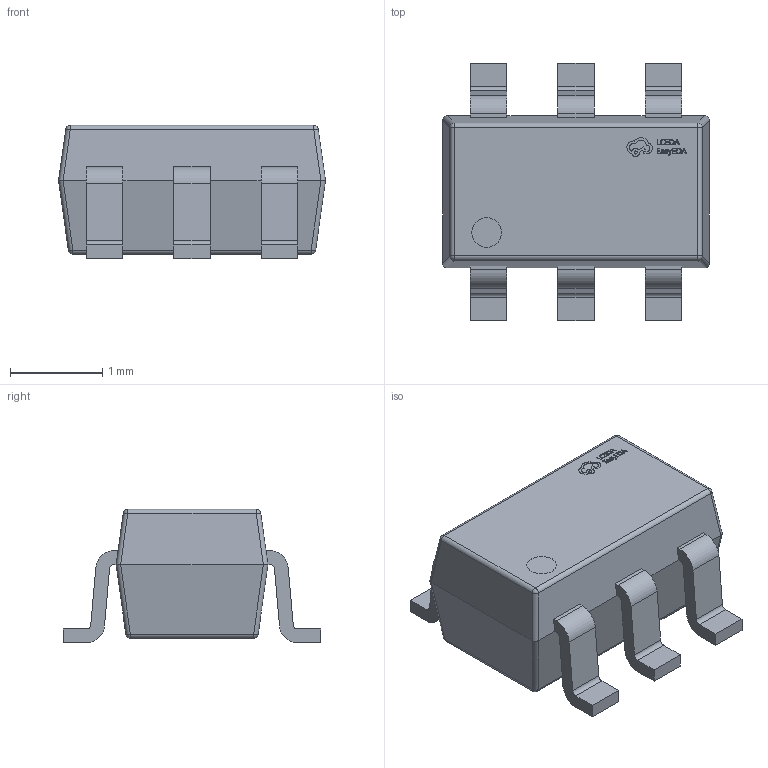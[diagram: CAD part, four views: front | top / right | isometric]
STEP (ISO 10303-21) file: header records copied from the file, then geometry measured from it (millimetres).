
FILE_DESCRIPTION (( 'STEP AP214' ), '1' );
FILE_NAME ('SOT-23-6_L2.9-W1.7-P0.95-LS2.8-BL.step', '2022-07-26T11:07:15', ( '' ), ( '' ), 'SwSTEP 2.0', 'SolidWorks 2020', '' );
FILE_SCHEMA (( 'AUTOMOTIVE_DESIGN' ));
Length unit declared in the file: millimetre
Products named in the file (1): SOT-23-6_L2.9-W1.7-P0.95-LS2.8-BL
Bounding box: 2.9 x 2.8 x 1.45 mm (x, y, z)
Volume: 6.5 mm3; surface area: 28.3 mm2
Topology: 14 solids, 14 shells, 405 faces, 1063 edges, 694 vertices
Faces by surface type: plane 243, bspline 112, cylinder 42, sphere 8
Entity records: 18163 total; most frequent: CARTESIAN_POINT 4279, ORIENTED_EDGE 2126, DIRECTION 1495, EDGE_CURVE 1063, VECTOR 755, LINE 755, VERTEX_POINT 694, EDGE_LOOP 425
